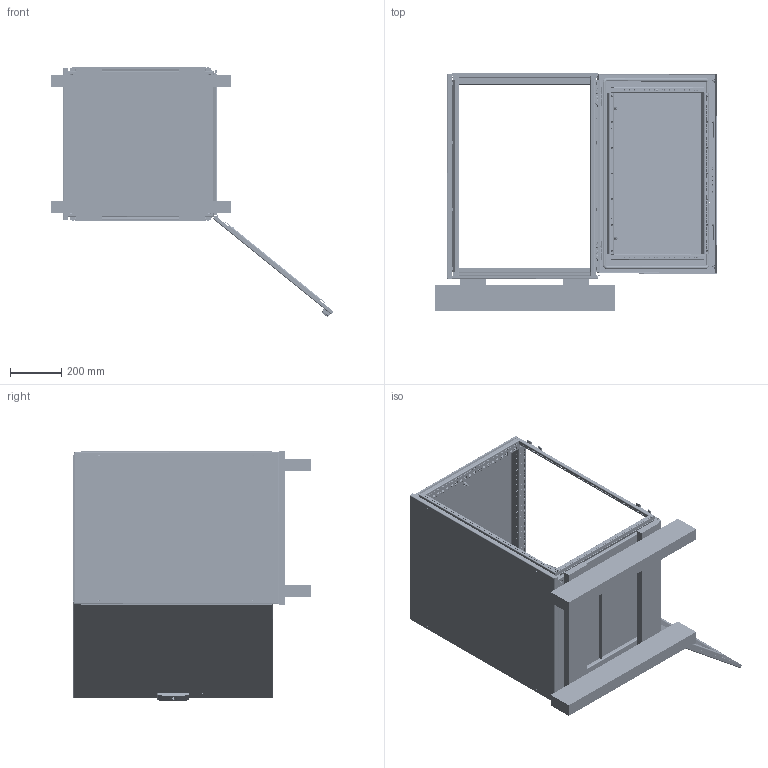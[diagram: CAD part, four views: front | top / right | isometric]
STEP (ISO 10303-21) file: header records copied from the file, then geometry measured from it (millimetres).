
FILE_DESCRIPTION (( 'STEP AP203' ), '1' );
FILE_NAME ('ICS 80.60.60 仃圄 蝈脲觐祆箜桕圉桀眄.STEP', '2023-02-16T15:01:53', ( '' ), ( '' ), 'SwSTEP 2.0', 'SolidWorks 2019', '' );
FILE_SCHEMA (( 'CONFIG_CONTROL_DESIGN' ));
Products named in the file (1): ICS 80.60.60 仃圄 蝈脲觐祆箜桕圉桀眄
Bounding box: 1100.12 x 927.3 x 973.83 mm (x, y, z)
Volume: 15357012.6 mm3; surface area: 7484118.4 mm2
Topology: 99 solids, 99 shells, 10382 faces, 28739 edges, 18625 vertices
Faces by surface type: plane 6063, cylinder 3868, cone 268, bspline 134, torus 41, sphere 8
Entity records: 408064 total; most frequent: CARTESIAN_POINT 132645, ORIENTED_EDGE 57358, DIRECTION 54918, EDGE_CURVE 28679, LINE 20200, VECTOR 20200, VERTEX_POINT 18617, AXIS2_PLACEMENT_3D 17359
